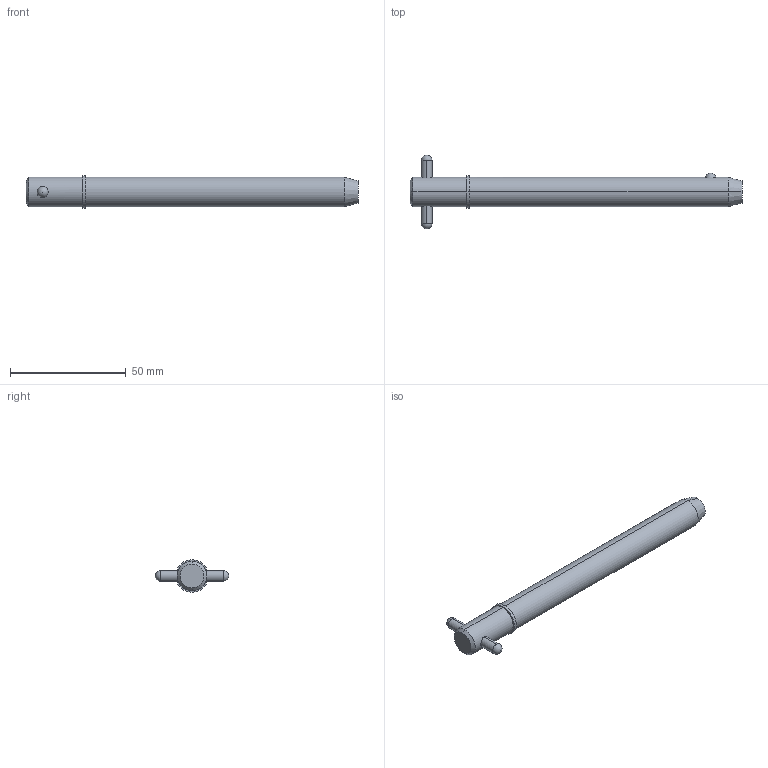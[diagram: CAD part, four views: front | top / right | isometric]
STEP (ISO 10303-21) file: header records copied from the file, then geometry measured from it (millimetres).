
FILE_DESCRIPTION (( 'STEP AP203' ), '1' );
FILE_NAME ('33018.W5040.step', '2024-11-19T17:15:15', ( '' ), ( '' ), 'SwSTEP 2.0', 'SolidWorks 2019', '' );
FILE_SCHEMA (( 'CONFIG_CONTROL_DESIGN' ));
Length unit declared in the file: millimetre
Products named in the file (3): Part2_33018.W5040; Part1_33018.W5040; 33018.W5040
Assembly tree (2 placements, depth 2):
  33018.W5040
    Part1_33018.W5040
    Part2_33018.W5040
Bounding box: 143.18 x 31.75 x 13.97 mm (x, y, z)
Volume: 18304.3 mm3; surface area: 6548.9 mm2
Topology: 2 solids, 2 shells, 22 faces, 47 edges, 30 vertices
Faces by surface type: cylinder 10, sphere 4, cone 4, plane 4
Entity records: 1043 total; most frequent: CARTESIAN_POINT 286, DIRECTION 110, ORIENTED_EDGE 82, AXIS2_PLACEMENT_3D 48, EDGE_CURVE 41, EDGE_LOOP 27, PERSON_AND_ORGANIZATION 26, VERTEX_POINT 26
